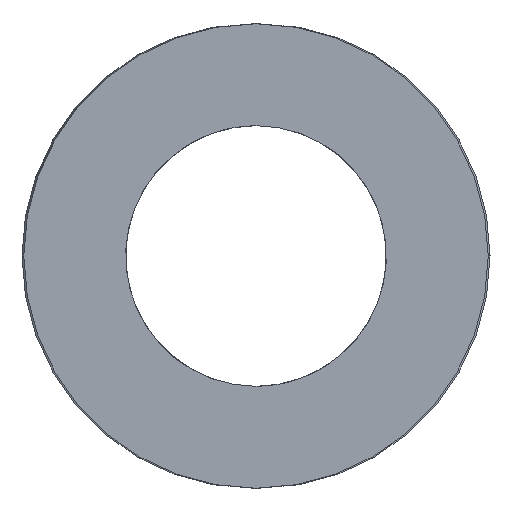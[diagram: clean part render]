
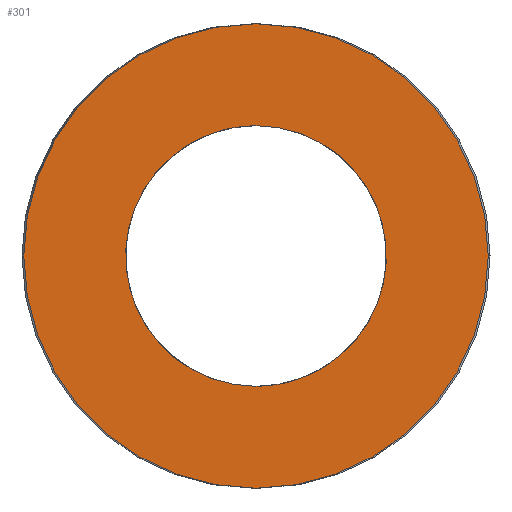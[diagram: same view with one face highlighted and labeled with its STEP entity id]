
A CAD part, left-side view. The second image highlights one B-rep face of the part: STEP entity #301.
In plain terms, the highlighted planar face has unit normal (-1, 0, 0).
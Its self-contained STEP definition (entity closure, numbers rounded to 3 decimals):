
#63=CARTESIAN_POINT('Vertex',(0.,15.5,0.)) ;
#77=CARTESIAN_POINT('Vertex',(0.,-15.5,0.)) ;
#80=CARTESIAN_POINT('Axis2P3D Location',(0.,0.,0.)) ;
#97=CARTESIAN_POINT('Axis2P3D Location',(0.,0.,0.)) ;
#232=CARTESIAN_POINT('Axis2P3D Location',(0.,7.75,0.)) ;
#242=CARTESIAN_POINT('Control Point',(0.,0.,-8.7)) ;
#243=CARTESIAN_POINT('Control Point',(0.,0.867,-8.7)) ;
#244=CARTESIAN_POINT('Control Point',(0.,1.734,-8.592)) ;
#245=CARTESIAN_POINT('Control Point',(0.,2.583,-8.376)) ;
#246=CARTESIAN_POINT('Control Point',(0.,4.209,-7.737)) ;
#247=CARTESIAN_POINT('Control Point',(0.,5.629,-6.719)) ;
#248=CARTESIAN_POINT('Control Point',(0.,6.272,-6.123)) ;
#249=CARTESIAN_POINT('Control Point',(0.,7.395,-4.785)) ;
#250=CARTESIAN_POINT('Control Point',(0.,8.156,-3.211)) ;
#251=CARTESIAN_POINT('Control Point',(0.,8.436,-2.381)) ;
#252=CARTESIAN_POINT('Control Point',(0.,8.783,-0.669)) ;
#253=CARTESIAN_POINT('Control Point',(0.,8.699,1.077)) ;
#254=CARTESIAN_POINT('Control Point',(0.,8.548,1.94)) ;
#255=CARTESIAN_POINT('Control Point',(0.,8.034,3.61)) ;
#256=CARTESIAN_POINT('Control Point',(0.,7.127,5.103)) ;
#257=CARTESIAN_POINT('Control Point',(0.,6.581,5.789)) ;
#258=CARTESIAN_POINT('Control Point',(0.,5.332,7.011)) ;
#259=CARTESIAN_POINT('Control Point',(0.,3.821,7.888)) ;
#260=CARTESIAN_POINT('Control Point',(0.,3.015,8.231)) ;
#261=CARTESIAN_POINT('Control Point',(0.,1.918,8.541)) ;
#262=CARTESIAN_POINT('Control Point',(0.,0.793,8.67)) ;
#263=CARTESIAN_POINT('Control Point',(0.,0.529,8.69)) ;
#264=CARTESIAN_POINT('Control Point',(0.,0.264,8.7)) ;
#265=CARTESIAN_POINT('Control Point',(0.,0.,8.7)) ;
#266=CARTESIAN_POINT('Vertex',(0.,0.,-8.7)) ;
#268=CARTESIAN_POINT('Vertex',(0.,0.,8.7)) ;
#272=CARTESIAN_POINT('Control Point',(0.,0.,8.7)) ;
#273=CARTESIAN_POINT('Control Point',(0.,-0.867,8.7)) ;
#274=CARTESIAN_POINT('Control Point',(0.,-1.734,8.592)) ;
#275=CARTESIAN_POINT('Control Point',(0.,-2.583,8.376)) ;
#276=CARTESIAN_POINT('Control Point',(0.,-4.209,7.737)) ;
#277=CARTESIAN_POINT('Control Point',(0.,-5.629,6.719)) ;
#278=CARTESIAN_POINT('Control Point',(0.,-6.272,6.123)) ;
#279=CARTESIAN_POINT('Control Point',(0.,-7.395,4.785)) ;
#280=CARTESIAN_POINT('Control Point',(0.,-8.156,3.211)) ;
#281=CARTESIAN_POINT('Control Point',(0.,-8.436,2.381)) ;
#282=CARTESIAN_POINT('Control Point',(0.,-8.783,0.669)) ;
#283=CARTESIAN_POINT('Control Point',(0.,-8.699,-1.077)) ;
#284=CARTESIAN_POINT('Control Point',(0.,-8.548,-1.94)) ;
#285=CARTESIAN_POINT('Control Point',(0.,-8.034,-3.61)) ;
#286=CARTESIAN_POINT('Control Point',(0.,-7.127,-5.103)) ;
#287=CARTESIAN_POINT('Control Point',(0.,-6.581,-5.789)) ;
#288=CARTESIAN_POINT('Control Point',(0.,-5.332,-7.011)) ;
#289=CARTESIAN_POINT('Control Point',(0.,-3.821,-7.888)) ;
#290=CARTESIAN_POINT('Control Point',(0.,-3.015,-8.231)) ;
#291=CARTESIAN_POINT('Control Point',(0.,-1.918,-8.541)) ;
#292=CARTESIAN_POINT('Control Point',(0.,-0.793,-8.67)) ;
#293=CARTESIAN_POINT('Control Point',(0.,-0.529,-8.69)) ;
#294=CARTESIAN_POINT('Control Point',(0.,-0.264,-8.7)) ;
#295=CARTESIAN_POINT('Control Point',(0.,0.,-8.7)) ;
#81=DIRECTION('Axis2P3D Direction',(1.,-0.,0.)) ;
#98=DIRECTION('Axis2P3D Direction',(1.,-0.,0.)) ;
#233=DIRECTION('Axis2P3D Direction',(-1.,0.,0.)) ;
#234=DIRECTION('Axis2P3D XDirection',(0.,1.,0.)) ;
#82=AXIS2_PLACEMENT_3D('Circle Axis2P3D',#80,#81,$) ;
#99=AXIS2_PLACEMENT_3D('Circle Axis2P3D',#97,#98,$) ;
#235=AXIS2_PLACEMENT_3D('Plane Axis2P3D',#232,#233,#234) ;
#238=ORIENTED_EDGE('',*,*,#84,.T.) ;
#239=ORIENTED_EDGE('',*,*,#101,.T.) ;
#298=ORIENTED_EDGE('',*,*,#270,.T.) ;
#299=ORIENTED_EDGE('',*,*,#296,.T.) ;
#300=FACE_BOUND('',#297,.T.) ;
#301=ADVANCED_FACE('392-B32-115',(#240,#300),#236,.T.) ;
#241=B_SPLINE_CURVE_WITH_KNOTS('',5,(#242,#243,#244,#245,#246,#247,#248,#249,#250,#251,#252,#253,#254,#255,#256,#257,#258,#259,#260,#261,#262,#263,#264,#265),.UNSPECIFIED.,.F.,.U.,(6,3,3,3,3,3,3,6),(0.,6.131,12.261,18.392,24.522,30.653,36.783,38.652),.UNSPECIFIED.) ;
#271=B_SPLINE_CURVE_WITH_KNOTS('',5,(#272,#273,#274,#275,#276,#277,#278,#279,#280,#281,#282,#283,#284,#285,#286,#287,#288,#289,#290,#291,#292,#293,#294,#295),.UNSPECIFIED.,.F.,.U.,(6,3,3,3,3,3,3,6),(0.,6.131,12.261,18.392,24.522,30.653,36.783,38.652),.UNSPECIFIED.) ;
#83=CIRCLE('generated circle',#82,15.5) ;
#100=CIRCLE('generated circle',#99,15.5) ;
#84=EDGE_CURVE('',#64,#78,#83,.F.) ;
#101=EDGE_CURVE('',#78,#64,#100,.F.) ;
#270=EDGE_CURVE('',#267,#269,#241,.T.) ;
#296=EDGE_CURVE('',#269,#267,#271,.T.) ;
#237=EDGE_LOOP('',(#238,#239)) ;
#297=EDGE_LOOP('',(#298,#299)) ;
#240=FACE_OUTER_BOUND('',#237,.T.) ;
#236=PLANE('Plane',#235) ;
#64=VERTEX_POINT('',#63) ;
#78=VERTEX_POINT('',#77) ;
#267=VERTEX_POINT('',#266) ;
#269=VERTEX_POINT('',#268) ;
